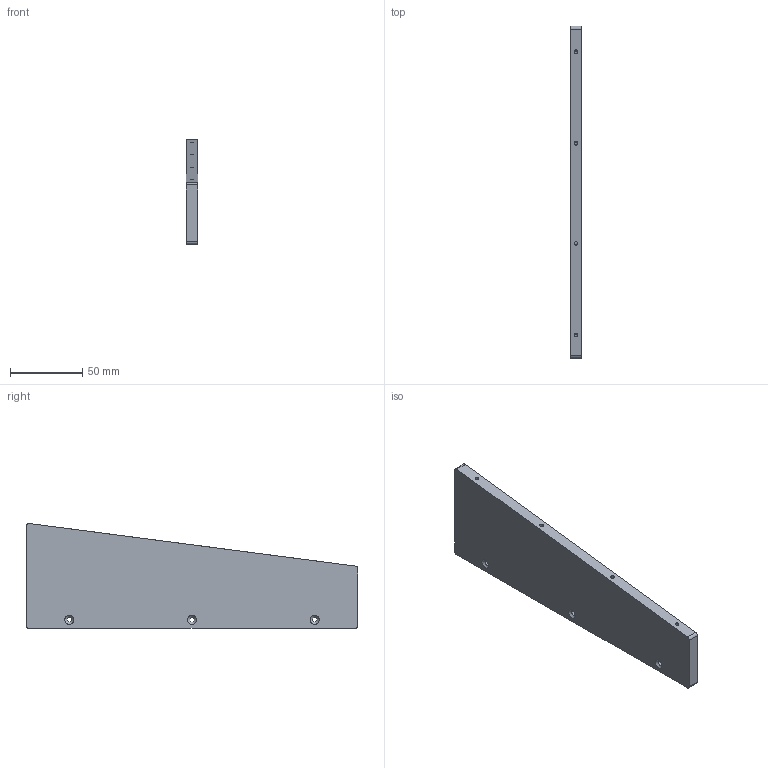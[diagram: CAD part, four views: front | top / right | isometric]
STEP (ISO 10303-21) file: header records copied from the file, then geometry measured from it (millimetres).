
FILE_DESCRIPTION(('Open CASCADE Model'),'2;1');
FILE_NAME('Open CASCADE Shape Model','2026-10-20T19:36:09',('Author'),( 'Open CASCADE'),'Open CASCADE STEP processor 7.9','Open CASCADE 7.9' ,'Unknown');
FILE_SCHEMA(('AUTOMOTIVE_DESIGN { 1 0 10303 214 1 1 1 1 }'));
Length unit declared in the file: millimetre
Products named in the file (1): Open CASCADE STEP translator 7.9 4
Bounding box: 8 x 230 x 72.72 mm (x, y, z)
Volume: 106231.1 mm3; surface area: 31765.2 mm2
Topology: 1 solids, 1 shells, 24 faces, 54 edges, 36 vertices
Faces by surface type: cylinder 11, plane 10, cone 3
Full cylindrical faces by diameter (mm): 2.5 x4, 3.4 x3
Entity records: 1428 total; most frequent: CARTESIAN_POINT 259, DIRECTION 234, LINE 112, VECTOR 112, ORIENTED_EDGE 108, PCURVE 108, DEFINITIONAL_REPRESENTATION 108, EDGE_CURVE 54
